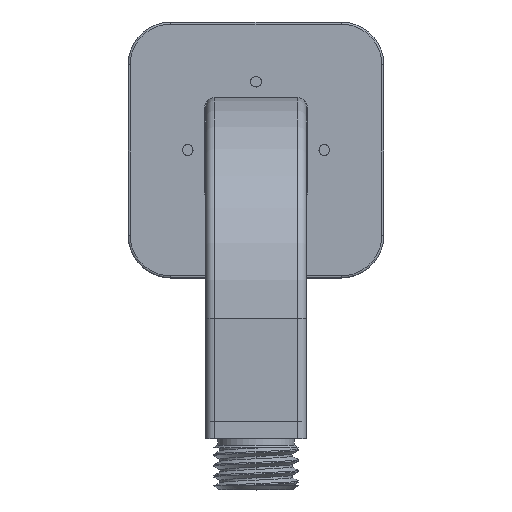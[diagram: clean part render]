
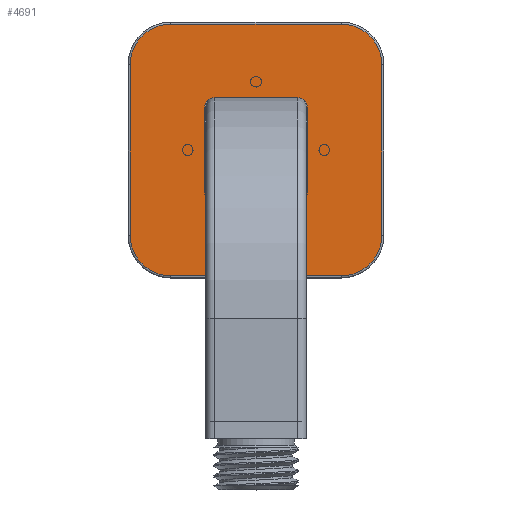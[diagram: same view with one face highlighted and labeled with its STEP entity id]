
A CAD part, top view. The second image highlights one B-rep face of the part: STEP entity #4691.
In plain terms, the highlighted planar face has unit normal (0, 0, 1).
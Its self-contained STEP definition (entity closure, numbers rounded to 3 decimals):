
#112=FACE_BOUND('',#1433,.T.);
#434=LINE('',#7368,#827);
#435=LINE('',#7372,#828);
#436=LINE('',#7376,#829);
#437=LINE('',#7380,#830);
#438=LINE('',#7384,#831);
#439=LINE('',#7388,#832);
#440=LINE('',#7392,#833);
#441=LINE('',#7396,#834);
#827=VECTOR('',#5931,40.);
#828=VECTOR('',#5934,40.);
#829=VECTOR('',#5937,40.);
#830=VECTOR('',#5940,40.);
#831=VECTOR('',#5943,20.);
#832=VECTOR('',#5946,20.);
#833=VECTOR('',#5949,20.);
#834=VECTOR('',#5952,20.);
#1150=FACE_OUTER_BOUND('',#1432,.T.);
#1432=EDGE_LOOP('',(#3574,#3575,#3576,#3577,#3578,#3579,#3580,#3581));
#1433=EDGE_LOOP('',(#3582,#3583,#3584,#3585,#3586,#3587,#3588,#3589));
#1689=CIRCLE('',#5052,9.5);
#1690=CIRCLE('',#5053,9.5);
#1691=CIRCLE('',#5054,9.5);
#1692=CIRCLE('',#5055,9.5);
#1693=CIRCLE('',#5056,2.);
#1694=CIRCLE('',#5057,2.);
#1695=CIRCLE('',#5058,2.);
#1696=CIRCLE('',#5059,2.);
#2049=VERTEX_POINT('',#7366);
#2050=VERTEX_POINT('',#7367);
#2051=VERTEX_POINT('',#7369);
#2052=VERTEX_POINT('',#7371);
#2053=VERTEX_POINT('',#7373);
#2054=VERTEX_POINT('',#7375);
#2055=VERTEX_POINT('',#7377);
#2056=VERTEX_POINT('',#7379);
#2057=VERTEX_POINT('',#7382);
#2058=VERTEX_POINT('',#7383);
#2059=VERTEX_POINT('',#7385);
#2060=VERTEX_POINT('',#7387);
#2061=VERTEX_POINT('',#7389);
#2062=VERTEX_POINT('',#7391);
#2063=VERTEX_POINT('',#7393);
#2064=VERTEX_POINT('',#7395);
#2604=EDGE_CURVE('',#2049,#2050,#434,.T.);
#2605=EDGE_CURVE('',#2050,#2051,#1689,.T.);
#2606=EDGE_CURVE('',#2051,#2052,#435,.T.);
#2607=EDGE_CURVE('',#2052,#2053,#1690,.T.);
#2608=EDGE_CURVE('',#2053,#2054,#436,.T.);
#2609=EDGE_CURVE('',#2054,#2055,#1691,.T.);
#2610=EDGE_CURVE('',#2055,#2056,#437,.T.);
#2611=EDGE_CURVE('',#2056,#2049,#1692,.T.);
#2612=EDGE_CURVE('',#2057,#2058,#438,.T.);
#2613=EDGE_CURVE('',#2058,#2059,#1693,.T.);
#2614=EDGE_CURVE('',#2059,#2060,#439,.T.);
#2615=EDGE_CURVE('',#2060,#2061,#1694,.T.);
#2616=EDGE_CURVE('',#2061,#2062,#440,.T.);
#2617=EDGE_CURVE('',#2062,#2063,#1695,.T.);
#2618=EDGE_CURVE('',#2063,#2064,#441,.T.);
#2619=EDGE_CURVE('',#2064,#2057,#1696,.T.);
#3574=ORIENTED_EDGE('',*,*,#2604,.T.);
#3575=ORIENTED_EDGE('',*,*,#2605,.T.);
#3576=ORIENTED_EDGE('',*,*,#2606,.T.);
#3577=ORIENTED_EDGE('',*,*,#2607,.T.);
#3578=ORIENTED_EDGE('',*,*,#2608,.T.);
#3579=ORIENTED_EDGE('',*,*,#2609,.T.);
#3580=ORIENTED_EDGE('',*,*,#2610,.T.);
#3581=ORIENTED_EDGE('',*,*,#2611,.T.);
#3582=ORIENTED_EDGE('',*,*,#2612,.T.);
#3583=ORIENTED_EDGE('',*,*,#2613,.T.);
#3584=ORIENTED_EDGE('',*,*,#2614,.T.);
#3585=ORIENTED_EDGE('',*,*,#2615,.T.);
#3586=ORIENTED_EDGE('',*,*,#2616,.T.);
#3587=ORIENTED_EDGE('',*,*,#2617,.T.);
#3588=ORIENTED_EDGE('',*,*,#2618,.T.);
#3589=ORIENTED_EDGE('',*,*,#2619,.T.);
#4536=PLANE('',#5051);
#4691=ADVANCED_FACE('',(#1150,#112),#4536,.F.);
#5051=AXIS2_PLACEMENT_3D('',#7365,#5929,#5930);
#5052=AXIS2_PLACEMENT_3D('',#7370,#5932,#5933);
#5053=AXIS2_PLACEMENT_3D('',#7374,#5935,#5936);
#5054=AXIS2_PLACEMENT_3D('',#7378,#5938,#5939);
#5055=AXIS2_PLACEMENT_3D('',#7381,#5941,#5942);
#5056=AXIS2_PLACEMENT_3D('',#7386,#5944,#5945);
#5057=AXIS2_PLACEMENT_3D('',#7390,#5947,#5948);
#5058=AXIS2_PLACEMENT_3D('',#7394,#5950,#5951);
#5059=AXIS2_PLACEMENT_3D('',#7397,#5953,#5954);
#5929=DIRECTION('center_axis',(0.,0.,
-1.));
#5930=DIRECTION('ref_axis',(-1.,0.,0.));
#5931=DIRECTION('',(0.,-1.,0.));
#5932=DIRECTION('center_axis',(0.,0.,
1.));
#5933=DIRECTION('ref_axis',(-1.,0.,0.));
#5934=DIRECTION('',(1.,0.,0.));
#5935=DIRECTION('center_axis',(0.,0.,
1.));
#5936=DIRECTION('ref_axis',(0.,-1.,0.));
#5937=DIRECTION('',(0.,1.,0.));
#5938=DIRECTION('center_axis',(0.,0.,
1.));
#5939=DIRECTION('ref_axis',(1.,0.,0.));
#5940=DIRECTION('',(-1.,0.,0.));
#5941=DIRECTION('center_axis',(0.,0.,
1.));
#5942=DIRECTION('ref_axis',(0.,1.,0.));
#5943=DIRECTION('',(1.,0.,0.));
#5944=DIRECTION('center_axis',(0.,0.,
-1.));
#5945=DIRECTION('ref_axis',(0.,1.,0.));
#5946=DIRECTION('',(0.,-1.,0.));
#5947=DIRECTION('center_axis',(0.,0.,
-1.));
#5948=DIRECTION('ref_axis',(1.,0.,0.));
#5949=DIRECTION('',(-1.,0.,0.));
#5950=DIRECTION('center_axis',(0.,0.,
-1.));
#5951=DIRECTION('ref_axis',(0.,-1.,0.));
#5952=DIRECTION('',(0.,1.,0.));
#5953=DIRECTION('center_axis',(0.,0.,
-1.));
#5954=DIRECTION('ref_axis',(-1.,0.,0.));
#7365=CARTESIAN_POINT('Origin',(11.75,376.25,-36.));
#7366=CARTESIAN_POINT('',(-17.75,396.25,-36.));
#7367=CARTESIAN_POINT('',(-17.75,356.25,-36.));
#7368=CARTESIAN_POINT('',(-17.75,396.25,-36.));
#7369=CARTESIAN_POINT('',(-8.25,346.75,-36.));
#7370=CARTESIAN_POINT('Origin',(-8.25,356.25,-36.));
#7371=CARTESIAN_POINT('',(31.75,346.75,-36.));
#7372=CARTESIAN_POINT('',(-8.25,346.75,-36.));
#7373=CARTESIAN_POINT('',(41.25,356.25,-36.));
#7374=CARTESIAN_POINT('Origin',(31.75,356.25,-36.));
#7375=CARTESIAN_POINT('',(41.25,396.25,-36.));
#7376=CARTESIAN_POINT('',(41.25,356.25,-36.));
#7377=CARTESIAN_POINT('',(31.75,405.75,-36.));
#7378=CARTESIAN_POINT('Origin',(31.75,396.25,-36.));
#7379=CARTESIAN_POINT('',(-8.25,405.75,-36.));
#7380=CARTESIAN_POINT('',(31.75,405.75,-36.));
#7381=CARTESIAN_POINT('Origin',(-8.25,396.25,-36.));
#7382=CARTESIAN_POINT('',(1.75,388.25,-36.));
#7383=CARTESIAN_POINT('',(21.75,388.25,-36.));
#7384=CARTESIAN_POINT('',(1.75,388.25,-36.));
#7385=CARTESIAN_POINT('',(23.75,386.25,-36.));
#7386=CARTESIAN_POINT('Origin',(21.75,386.25,-36.));
#7387=CARTESIAN_POINT('',(23.75,366.25,-36.));
#7388=CARTESIAN_POINT('',(23.75,386.25,-36.));
#7389=CARTESIAN_POINT('',(21.75,364.25,-36.));
#7390=CARTESIAN_POINT('Origin',(21.75,366.25,-36.));
#7391=CARTESIAN_POINT('',(1.75,364.25,-36.));
#7392=CARTESIAN_POINT('',(21.75,364.25,-36.));
#7393=CARTESIAN_POINT('',(-0.25,366.25,-36.));
#7394=CARTESIAN_POINT('Origin',(1.75,366.25,-36.));
#7395=CARTESIAN_POINT('',(-0.25,386.25,-36.));
#7396=CARTESIAN_POINT('',(-0.25,366.25,-36.));
#7397=CARTESIAN_POINT('Origin',(1.75,386.25,-36.));
